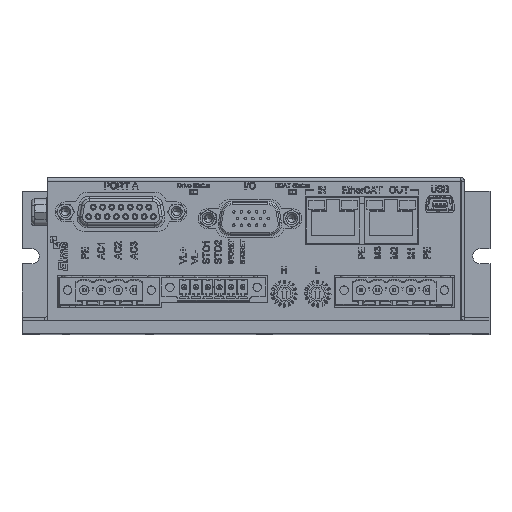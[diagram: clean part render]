
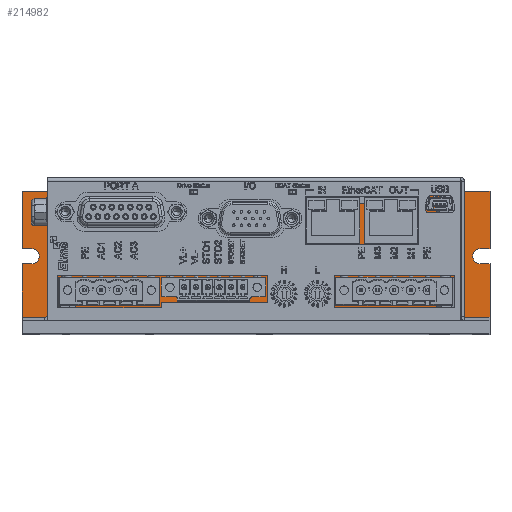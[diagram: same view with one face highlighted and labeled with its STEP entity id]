
A CAD part, top view. The second image highlights one B-rep face of the part: STEP entity #214982.
In plain terms, the highlighted planar face has unit normal (0, 0, 1).
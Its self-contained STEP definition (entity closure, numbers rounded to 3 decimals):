
#35177 = VERTEX_POINT ( 'NONE', #198249 ) ;
#50588 = VECTOR ( 'NONE', #102885, 1000. ) ;
#50613 = VECTOR ( 'NONE', #102898, 1000. ) ;
#51022 = VECTOR ( 'NONE', #54029, 1000. ) ;
#51027 = VECTOR ( 'NONE', #54031, 1000. ) ;
#51041 = VECTOR ( 'NONE', #54034, 1000. ) ;
#51047 = CIRCLE ( 'NONE', #51070, 2.25 ) ;
#51063 = VECTOR ( 'NONE', #54108, 1000. ) ;
#51070 = AXIS2_PLACEMENT_3D ( 'NONE', #54111, #54112, #54113 ) ;
#53118 = VERTEX_POINT ( 'NONE', #107427 ) ;
#53122 = VERTEX_POINT ( 'NONE', #107443 ) ;
#53126 = VERTEX_POINT ( 'NONE', #107457 ) ;
#53150 = VERTEX_POINT ( 'NONE', #107542 ) ;
#53192 = VERTEX_POINT ( 'NONE', #107699 ) ;
#53198 = VERTEX_POINT ( 'NONE', #107722 ) ;
#53210 = VERTEX_POINT ( 'NONE', #107768 ) ;
#53214 = VERTEX_POINT ( 'NONE', #107783 ) ;
#53998 = LINE ( 'NONE', #54027, #51022 ) ;
#54021 = LINE ( 'NONE', #54030, #51027 ) ;
#54027 = CARTESIAN_POINT ( 'NONE',  ( -140., 21.175, 4. ) ) ;
#54029 = DIRECTION ( 'NONE',  ( 1., 0., 0. ) ) ;
#54030 = CARTESIAN_POINT ( 'NONE',  ( -140., 25.675, 4. ) ) ;
#54031 = DIRECTION ( 'NONE',  ( -1., 0., 0. ) ) ;
#54032 = LINE ( 'NONE', #54033, #51041 ) ;
#54033 = CARTESIAN_POINT ( 'NONE',  ( -140., 42.85, 4. ) ) ;
#54034 = DIRECTION ( 'NONE',  ( 1., 0., 0. ) ) ;
#54106 = LINE ( 'NONE', #54107, #51063 ) ;
#54107 = CARTESIAN_POINT ( 'NONE',  ( 0., 25.675, 4. ) ) ;
#54108 = DIRECTION ( 'NONE',  ( -1., 0., 0. ) ) ;
#54111 = CARTESIAN_POINT ( 'NONE',  ( -2.9, 23.425, 4. ) ) ;
#54112 = DIRECTION ( 'NONE',  ( 0., 0., 1. ) ) ;
#54113 = DIRECTION ( 'NONE',  ( 1., 0., 0. ) ) ;
#59299 = VECTOR ( 'NONE', #85789, 1000. ) ;
#59326 = VECTOR ( 'NONE', #85930, 1000. ) ;
#59357 = VECTOR ( 'NONE', #86009, 1000. ) ;
#59559 = CIRCLE ( 'NONE', #59566, 2.25 ) ;
#59566 = AXIS2_PLACEMENT_3D ( 'NONE', #86679, #86681, #86684 ) ;
#63453 = CARTESIAN_POINT ( 'NONE',  ( -140., 0., 4. ) ) ;
#63466 = FACE_OUTER_BOUND ( 'NONE', #153069, .T. ) ;
#63470 = PLANE ( 'NONE',  #147190 ) ;
#63479 = DIRECTION ( 'NONE',  ( 0., 0., -1. ) ) ;
#63482 = DIRECTION ( 'NONE',  ( -1., 0., 0. ) ) ;
#73270 = CARTESIAN_POINT ( 'NONE',  ( -137.1, 21.175, 4. ) ) ;
#73434 = CARTESIAN_POINT ( 'NONE',  ( 0., 25.675, 4. ) ) ;
#85767 = LINE ( 'NONE', #85781, #59299 ) ;
#85781 = CARTESIAN_POINT ( 'NONE',  ( -140., 0., 4. ) ) ;
#85789 = DIRECTION ( 'NONE',  ( 0., 1., 0. ) ) ;
#85904 = LINE ( 'NONE', #85924, #59326 ) ;
#85924 = CARTESIAN_POINT ( 'NONE',  ( -140., 0., 4. ) ) ;
#85930 = DIRECTION ( 'NONE',  ( 0., 1., 0. ) ) ;
#85989 = LINE ( 'NONE', #86005, #59357 ) ;
#86005 = CARTESIAN_POINT ( 'NONE',  ( 0., 0., 4. ) ) ;
#86009 = DIRECTION ( 'NONE',  ( 0., 1., 0. ) ) ;
#86526 = CARTESIAN_POINT ( 'NONE',  ( 0., 42.85, 4. ) ) ;
#86679 = CARTESIAN_POINT ( 'NONE',  ( -137.1, 23.425, 4. ) ) ;
#86681 = DIRECTION ( 'NONE',  ( 0., 0., 1. ) ) ;
#86684 = DIRECTION ( 'NONE',  ( -1., 0., 0. ) ) ;
#98021 = LINE ( 'NONE', #98027, #272942 ) ;
#98027 = CARTESIAN_POINT ( 'NONE',  ( -140., 4., 4. ) ) ;
#98030 = DIRECTION ( 'NONE',  ( 1., 0., 0. ) ) ;
#100042 = CARTESIAN_POINT ( 'NONE',  ( -137.1, 23.425, 4. ) ) ;
#100043 = DIRECTION ( 'NONE',  ( 0., 0., 1. ) ) ;
#100044 = DIRECTION ( 'NONE',  ( -1., 0., 0. ) ) ;
#102850 = LINE ( 'NONE', #102880, #50588 ) ;
#102880 = CARTESIAN_POINT ( 'NONE',  ( 0., 21.175, 4. ) ) ;
#102885 = DIRECTION ( 'NONE',  ( 1., 0., 0. ) ) ;
#102893 = LINE ( 'NONE', #102896, #50613 ) ;
#102896 = CARTESIAN_POINT ( 'NONE',  ( 0., 0., 4. ) ) ;
#102898 = DIRECTION ( 'NONE',  ( 0., 1., 0. ) ) ;
#107427 = CARTESIAN_POINT ( 'NONE',  ( -134.85, 23.425, 4. ) ) ;
#107443 = CARTESIAN_POINT ( 'NONE',  ( 0., 21.175, 4. ) ) ;
#107457 = CARTESIAN_POINT ( 'NONE',  ( -140., 4., 4. ) ) ;
#107542 = CARTESIAN_POINT ( 'NONE',  ( -140., 42.85, 4. ) ) ;
#107699 = CARTESIAN_POINT ( 'NONE',  ( -140., 21.175, 4. ) ) ;
#107722 = CARTESIAN_POINT ( 'NONE',  ( 0., 4., 4. ) ) ;
#107768 = CARTESIAN_POINT ( 'NONE',  ( -137.1, 25.675, 4. ) ) ;
#107783 = CARTESIAN_POINT ( 'NONE',  ( -140., 25.675, 4. ) ) ;
#111535 = VERTEX_POINT ( 'NONE', #86526 ) ;
#132162 = EDGE_CURVE ( 'NONE', #53126, #53198, #98021, .T. ) ;
#132814 = EDGE_CURVE ( 'NONE', #279321, #53118, #273915, .T. ) ;
#147190 = AXIS2_PLACEMENT_3D ( 'NONE', #63453, #63479, #63482 ) ;
#150583 = EDGE_CURVE ( 'NONE', #210356, #53122, #102850, .T. ) ;
#150585 = EDGE_CURVE ( 'NONE', #279714, #111535, #102893, .T. ) ;
#150653 = EDGE_CURVE ( 'NONE', #53192, #279321, #53998, .T. ) ;
#150654 = EDGE_CURVE ( 'NONE', #53210, #53214, #54021, .T. ) ;
#150655 = EDGE_CURVE ( 'NONE', #53150, #111535, #54032, .T. ) ;
#150661 = EDGE_CURVE ( 'NONE', #279714, #35177, #54106, .T. ) ;
#150662 = EDGE_CURVE ( 'NONE', #35177, #210356, #51047, .T. ) ;
#151093 = EDGE_CURVE ( 'NONE', #53126, #53192, #85767, .T. ) ;
#151128 = EDGE_CURVE ( 'NONE', #53214, #53150, #85904, .T. ) ;
#151159 = EDGE_CURVE ( 'NONE', #53198, #53122, #85989, .T. ) ;
#151321 = EDGE_CURVE ( 'NONE', #53118, #53210, #59559, .T. ) ;
#153069 = EDGE_LOOP ( 'NONE', ( #210213, #210217, #210220, #210224, #210228, #210232, #210236, #210239, #210243, #210247, #210251, #210255, #210258 ) ) ;
#198249 = CARTESIAN_POINT ( 'NONE',  ( -2.9, 25.675, 4. ) ) ;
#210213 = ORIENTED_EDGE ( 'NONE', *, *, #151159, .T. ) ;
#210217 = ORIENTED_EDGE ( 'NONE', *, *, #150583, .F. ) ;
#210220 = ORIENTED_EDGE ( 'NONE', *, *, #150662, .F. ) ;
#210224 = ORIENTED_EDGE ( 'NONE', *, *, #150661, .F. ) ;
#210228 = ORIENTED_EDGE ( 'NONE', *, *, #150585, .T. ) ;
#210232 = ORIENTED_EDGE ( 'NONE', *, *, #150655, .F. ) ;
#210236 = ORIENTED_EDGE ( 'NONE', *, *, #151128, .F. ) ;
#210239 = ORIENTED_EDGE ( 'NONE', *, *, #150654, .F. ) ;
#210243 = ORIENTED_EDGE ( 'NONE', *, *, #151321, .F. ) ;
#210247 = ORIENTED_EDGE ( 'NONE', *, *, #132814, .F. ) ;
#210251 = ORIENTED_EDGE ( 'NONE', *, *, #150653, .F. ) ;
#210255 = ORIENTED_EDGE ( 'NONE', *, *, #151093, .F. ) ;
#210258 = ORIENTED_EDGE ( 'NONE', *, *, #132162, .T. ) ;
#210356 = VERTEX_POINT ( 'NONE', #236541 ) ;
#214982 = ADVANCED_FACE ( 'NONE', ( #63466 ), #63470, .F. ) ;
#236541 = CARTESIAN_POINT ( 'NONE',  ( -2.9, 21.175, 4. ) ) ;
#272942 = VECTOR ( 'NONE', #98030, 1000. ) ;
#273187 = AXIS2_PLACEMENT_3D ( 'NONE', #100042, #100043, #100044 ) ;
#273915 = CIRCLE ( 'NONE', #273187, 2.25 ) ;
#279321 = VERTEX_POINT ( 'NONE', #73270 ) ;
#279714 = VERTEX_POINT ( 'NONE', #73434 ) ;
